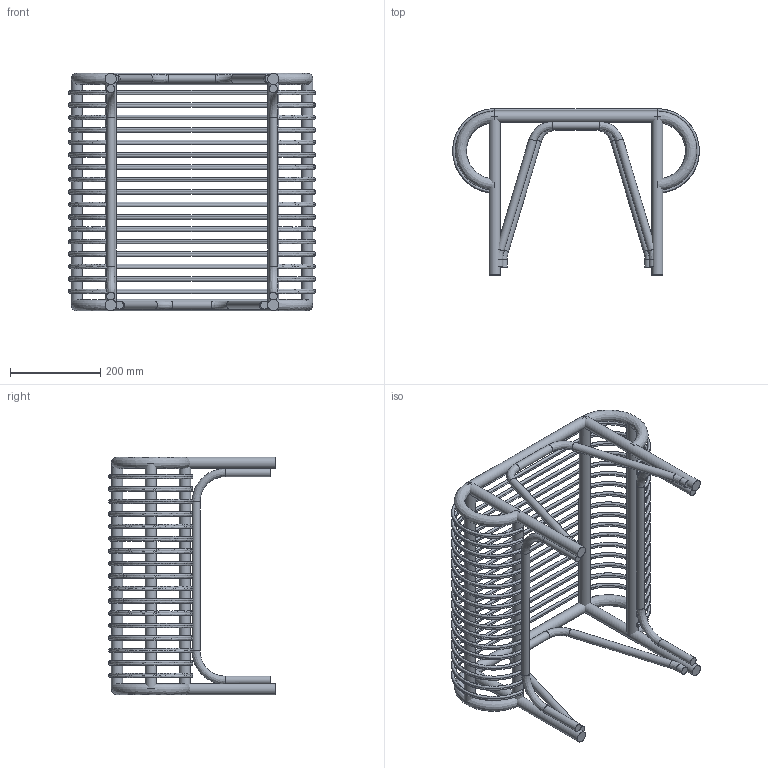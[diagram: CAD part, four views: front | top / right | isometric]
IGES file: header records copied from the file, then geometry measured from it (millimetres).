
Global section: file name: VincentSheppard_LucyFootrest; native system: unknown; preprocessor: unknown; author: ict@vincentsheppard.com; organization: unknown; date: 20180524.085032; units: millimetre
Bounding box: 546 x 368 x 526 mm (x, y, z)
Volume: 4804769.8 mm3; surface area: 1258622.8 mm2
Topology: 50 solids, 50 shells, 246 faces, 486 edges, 340 vertices
Faces by surface type: bspline 246
